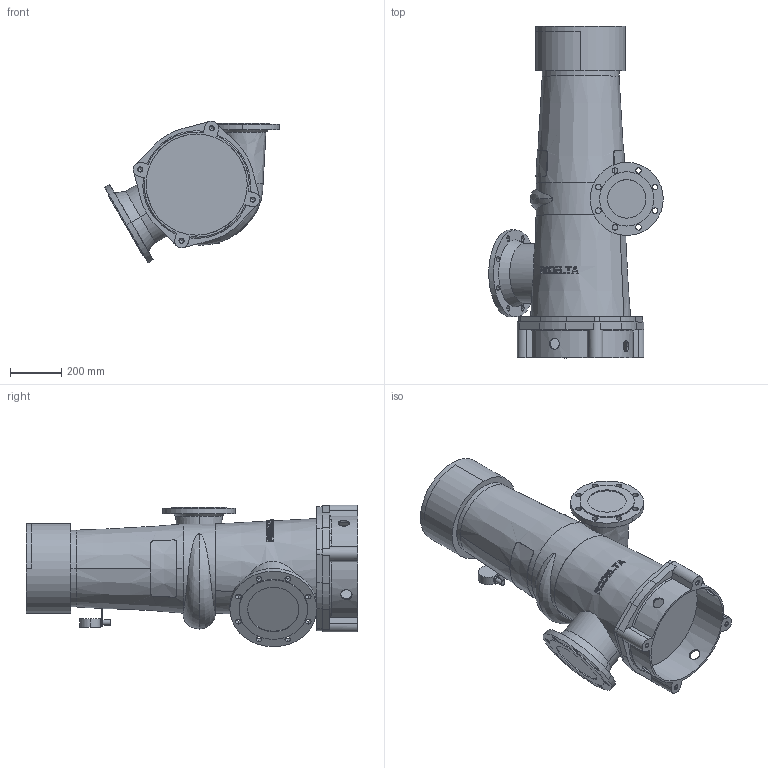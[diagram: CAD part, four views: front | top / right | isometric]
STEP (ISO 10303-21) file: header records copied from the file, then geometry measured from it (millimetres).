
FILE_DESCRIPTION((''),'2;1');
FILE_NAME('7310_ASM','2024-07-23T',('Lyritlocal'),(''),'PRO/ENGINEER BY PARAMETRIC TECHNOLOGY CORPORATION, 2016360','PRO/ENGINEER BY PARAMETRIC TECHNOLOGY CORPORATION, 2016360','');
FILE_SCHEMA(('CONFIG_CONTROL_DESIGN'));
Length unit declared in the file: millimetre
Products named in the file (3): 7310_VOET; 7310; 7310_ASM
Assembly tree (2 placements, depth 2):
  7310_ASM
    7310_VOET
    7310
Bounding box: 681.16 x 1295 x 552.37 mm (x, y, z)
Volume: 130921154 mm3; surface area: 2758235.8 mm2
Topology: 2 solids, 6 shells, 520 faces, 1400 edges, 927 vertices
Faces by surface type: plane 343, cylinder 129, cone 38, bspline 6, torus 4
Entity records: 18158 total; most frequent: CARTESIAN_POINT 5526, ORIENTED_EDGE 2768, DIRECTION 2357, EDGE_CURVE 1392, VERTEX_POINT 927, AXIS2_PLACEMENT_3D 912, EDGE_LOOP 611, VECTOR 533
